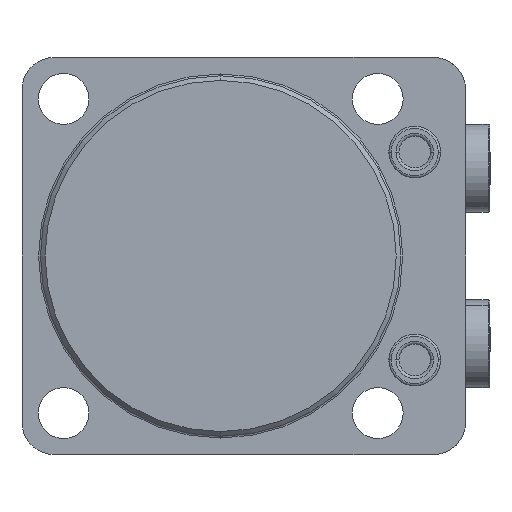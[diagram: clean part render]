
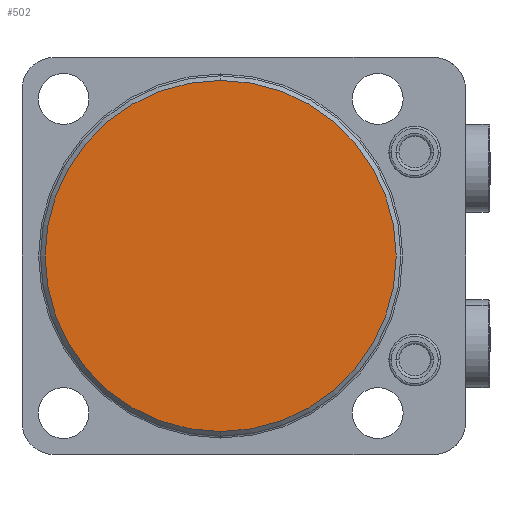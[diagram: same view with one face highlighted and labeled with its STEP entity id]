
A CAD part, front view. The second image highlights one B-rep face of the part: STEP entity #502.
In plain terms, the highlighted planar face has unit normal (0, -1, 0) as drawn and (0, 1, 0) by its records, which use the part's own axes.
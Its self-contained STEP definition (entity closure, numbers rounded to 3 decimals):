
#220=PLANE('',#3308);
#502=ADVANCED_FACE('',(#710),#220,.T.);
#710=FACE_OUTER_BOUND('',#898,.F.);
#898=EDGE_LOOP('',(#1901,#1902));
#1901=ORIENTED_EDGE('',*,*,#2756,.T.);
#1902=ORIENTED_EDGE('',*,*,#2695,.T.);
#2337=VERTEX_POINT('',#5139);
#2338=VERTEX_POINT('',#5140);
#2695=EDGE_CURVE('',#2337,#2338,#2956,.T.);
#2756=EDGE_CURVE('',#2338,#2337,#2978,.T.);
#2956=CIRCLE('',#3272,38.);
#2978=CIRCLE('',#3307,38.);
#3272=AXIS2_PLACEMENT_3D('',#5138,#4043,#4044);
#3307=AXIS2_PLACEMENT_3D('',#5268,#4147,#4148);
#3308=AXIS2_PLACEMENT_3D('',#5269,#4149,#4150);
#4043=DIRECTION('',(0.,-1.,0.));
#4044=DIRECTION('',(0.,0.,1.));
#4147=DIRECTION('',(0.,-1.,0.));
#4148=DIRECTION('',(0.,0.,1.));
#4149=DIRECTION('',(0.,1.,0.));
#4150=DIRECTION('',(0.,0.,-1.));
#5138=CARTESIAN_POINT('',(0.,0.,0.));
#5139=CARTESIAN_POINT('',(0.,0.,-38.));
#5140=CARTESIAN_POINT('',(0.,0.,38.));
#5268=CARTESIAN_POINT('',(0.,0.,0.));
#5269=CARTESIAN_POINT('',(-43.,0.,43.));
